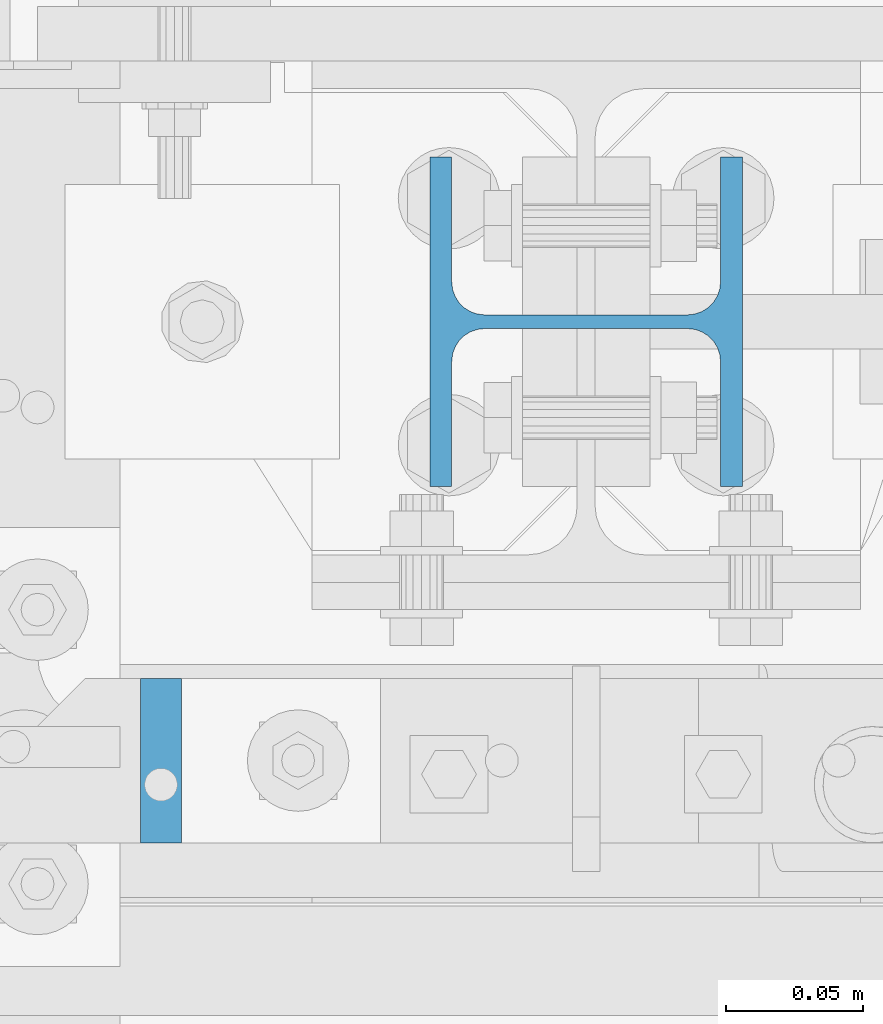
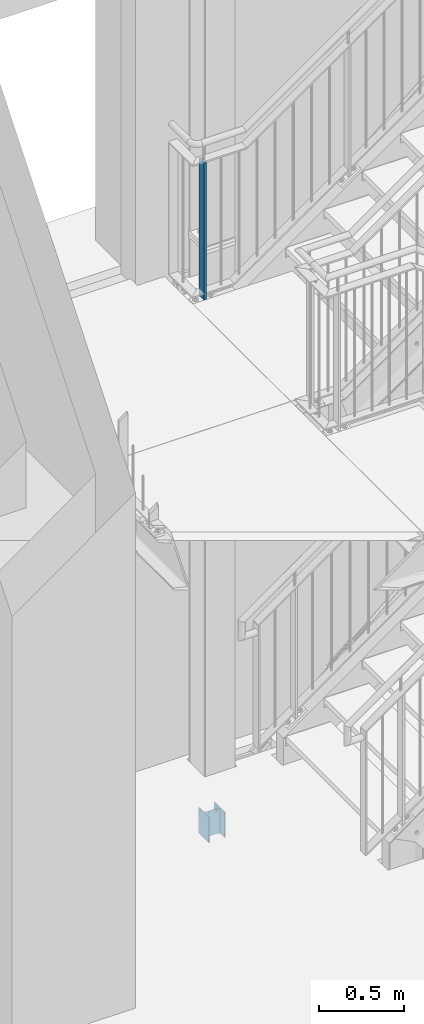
# One storey, part 68 of 831: 2 columns, 2 openings.
"""IFC2X3 building model written with IfcOpenShell, lengths in millimetres."""

from ifc_helpers import new_model, entity, si_unit, converted_unit, frame, origin, origin_with_axes, origin_2d, origin_2d_with_axis, place, context, project, spatial, rectangle, circle, i_section, extrude, clip, halfspace, material, element, save


model = new_model("IFC2X3")

# Units and contexts
model_context = context("Model", 3, precision=1e-09, world=origin_with_axes())
ifc_project = project(units=[si_unit("LENGTHUNIT", "METRE", prefix="MILLI"), si_unit("AREAUNIT", "SQUARE_METRE"), si_unit("VOLUMEUNIT", "CUBIC_METRE"), converted_unit("PLANEANGLEUNIT", "DEGREE", entity("IfcPlaneAngleMeasure", 0.01745329), si_unit("PLANEANGLEUNIT", "RADIAN"), dimensions=[0, 0, 0, 0, 0, 0, 0])], contexts=[model_context])

# Site, building, storey
site_placement = place(None, origin_with_axes())
site = spatial("IfcSite", under=ifc_project, at=site_placement, Name="Site", CompositionType="ELEMENT")
building_placement = place(site_placement, origin_with_axes())
building = spatial("IfcBuilding", under=site, at=building_placement, Name="Struktur 1", CompositionType="ELEMENT")
storey_placement = place(building_placement, origin_with_axes())
storey = spatial("IfcBuildingStorey", under=building, at=storey_placement, Name="Default Storey", CompositionType="ELEMENT", Elevation=0.0)

# Column
ifc_material = material(Name="S235JR")
column_1_placement = place(None, frame((4701.713402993, 7356.736971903, 4886.723292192), z_axis=(0.0, 0.0, 1.0), x_axis=(1.0, 0.0, 0.0)))
element("IfcColumn", 1, at=column_1_placement, inside=storey, material=ifc_material, Name="Railing_Post_Landing#0", ObjectType="Railing_Post_Landing#0", context=model_context, shape_type="Clipping", body=[
    clip(clip(extrude(rectangle(XDim=15.0, YDim=60.0, at=origin_2d()), origin(), (0.0, 0.0, -1.0), 1070.646584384), halfspace(frame((-4701.713402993, -7356.736971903, -1019.722292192), z_axis=(0.0, 0.0, 1.0), x_axis=(1.0, 0.0, 0.0)), True)), halfspace(frame((-4701.713402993, -7356.736971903, -30.924292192), z_axis=(0.0, 0.0, -1.0), x_axis=(-1.0, 0.0, 0.0)), True)),
])

# Column, openings
column_2_placement = place(None, frame((4856.713402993, 7516.736971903, 30.0), z_axis=(0.0, 0.0, 1.0), x_axis=(0.0, -1.0, 0.0)))
column_2 = element("IfcColumn", 2, at=column_2_placement, inside=storey, material=ifc_material, Name="-", ObjectType="-", context=model_context, shape_type="SweptSolid", body=[
    extrude(i_section(OverallWidth=120.0, OverallDepth=114.0, WebThickness=5.0, FlangeThickness=8.0, FilletRadius=12.0, at=origin_2d()), origin(), (0.0, 0.0, -1.0), 180.0),
])
opening_1_placement = place(column_2_placement, frame((-3.0, 30.0, -12.0), z_axis=(1.0, 0.0, 0.0), x_axis=(0.0, 0.0, -1.0)))
element("IfcOpeningElement", 3, at=opening_1_placement, cuts=column_2, ObjectType="Opening", context=model_context, shape_type="SweptSolid", body=[
    extrude(circle(Radius=6.001, at=origin_2d_with_axis()), origin(), (0.0, 0.0, 1.0), 6.0),
])
opening_2_placement = place(column_2_placement, frame((-3.0, -30.0, -12.0), z_axis=(1.0, 0.0, 0.0), x_axis=(0.0, 0.0, -1.0)))
element("IfcOpeningElement", 4, at=opening_2_placement, cuts=column_2, ObjectType="Opening", context=model_context, shape_type="SweptSolid", body=[
    extrude(circle(Radius=6.001, at=origin_2d_with_axis()), origin(), (0.0, 0.0, 1.0), 6.0),
])

save(model, "model.ifc")
